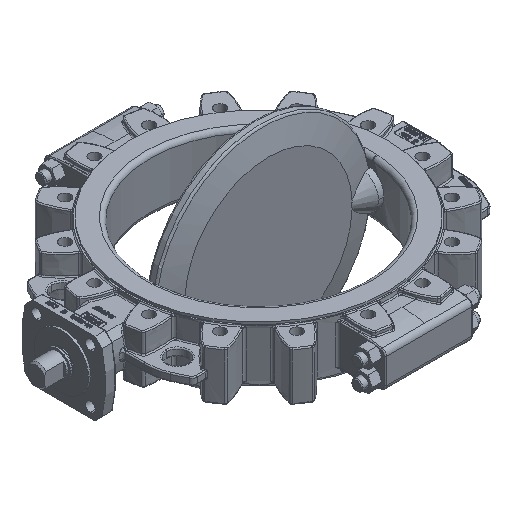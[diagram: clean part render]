
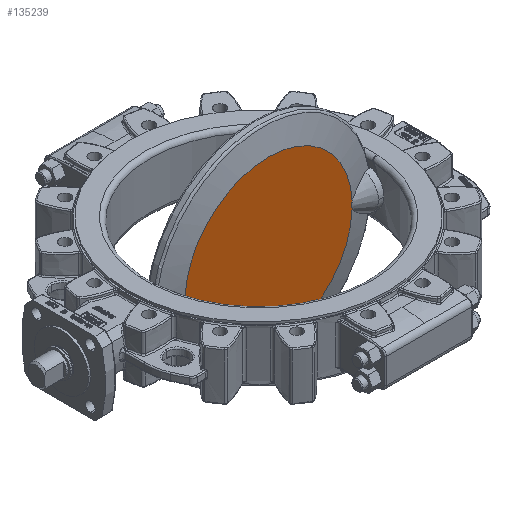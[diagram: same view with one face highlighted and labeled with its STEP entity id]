
A CAD part, isometric view. The second image highlights one B-rep face of the part: STEP entity #135239.
In plain terms, the highlighted planar face has unit normal (0, -1, 0).
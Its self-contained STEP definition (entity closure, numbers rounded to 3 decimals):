
#49932=CARTESIAN_POINT('',(-154.444,-18.5,5.284));
#49933=CARTESIAN_POINT('',(-154.299,-18.5,5.037));
#49934=CARTESIAN_POINT('',(-154.032,-18.5,4.551));
#49935=CARTESIAN_POINT('',(-153.7,-18.5,3.852));
#49936=CARTESIAN_POINT('',(-153.43,-18.5,3.176));
#49937=CARTESIAN_POINT('',(-153.216,-18.5,2.519));
#49938=CARTESIAN_POINT('',(-153.054,-18.5,1.877));
#49939=CARTESIAN_POINT('',(-152.94,-18.5,1.245));
#49940=CARTESIAN_POINT('',(-152.873,-18.5,0.621));
#49941=CARTESIAN_POINT('',(-152.85,-18.5,0.));
#49942=CARTESIAN_POINT('',(-152.873,-18.5,-0.621));
#49943=CARTESIAN_POINT('',(-152.94,-18.5,-1.245));
#49944=CARTESIAN_POINT('',(-153.054,-18.5,-1.877));
#49945=CARTESIAN_POINT('',(-153.216,-18.5,-2.519));
#49946=CARTESIAN_POINT('',(-153.43,-18.5,-3.176));
#49947=CARTESIAN_POINT('',(-153.7,-18.5,-3.852));
#49948=CARTESIAN_POINT('',(-154.032,-18.5,-4.551));
#49949=CARTESIAN_POINT('',(-154.299,-18.5,-5.037));
#49950=CARTESIAN_POINT('',(-154.444,-18.5,-5.284));
#49962=CARTESIAN_POINT('',(0.,-18.5,0.));
#49963=DIRECTION('',(0.,-1.,0.));
#49964=DIRECTION('',(-0.999,0.,-0.034));
#49965=AXIS2_PLACEMENT_3D('',#49962,#49963,#49964);
#49967=CARTESIAN_POINT('',(154.444,-18.5,-5.284));
#50025=CARTESIAN_POINT('',(-154.444,-18.5,-5.284));
#50027=CARTESIAN_POINT('',(154.444,-18.5,-5.284));
#50028=CARTESIAN_POINT('',(154.299,-18.5,-5.037));
#50029=CARTESIAN_POINT('',(154.032,-18.5,-4.551));
#50030=CARTESIAN_POINT('',(153.7,-18.5,-3.852));
#50031=CARTESIAN_POINT('',(153.43,-18.5,-3.176));
#50032=CARTESIAN_POINT('',(153.216,-18.5,-2.519));
#50033=CARTESIAN_POINT('',(153.054,-18.5,-1.877));
#50034=CARTESIAN_POINT('',(152.94,-18.5,-1.245));
#50035=CARTESIAN_POINT('',(152.873,-18.5,-0.621));
#50036=CARTESIAN_POINT('',(152.85,-18.5,0.));
#50037=CARTESIAN_POINT('',(152.873,-18.5,0.621));
#50038=CARTESIAN_POINT('',(152.94,-18.5,1.245));
#50039=CARTESIAN_POINT('',(153.054,-18.5,1.877));
#50040=CARTESIAN_POINT('',(153.216,-18.5,2.519));
#50041=CARTESIAN_POINT('',(153.43,-18.5,3.176));
#50042=CARTESIAN_POINT('',(153.7,-18.5,3.852));
#50043=CARTESIAN_POINT('',(154.032,-18.5,4.551));
#50044=CARTESIAN_POINT('',(154.299,-18.5,5.037));
#50045=CARTESIAN_POINT('',(154.444,-18.5,5.284));
#51726=CARTESIAN_POINT('',(154.444,-18.5,5.284));
#51728=CARTESIAN_POINT('',(0.,-18.5,0.));
#51729=DIRECTION('',(0.,-1.,0.));
#51730=DIRECTION('',(0.999,0.,0.034));
#51731=AXIS2_PLACEMENT_3D('',#51728,#51729,#51730);
#51733=CARTESIAN_POINT('',(-154.444,-18.5,5.284));
#63458=VERTEX_POINT('',#51733);
#63461=VERTEX_POINT('',#50025);
#63469=VERTEX_POINT('',#51726);
#63471=VERTEX_POINT('',#49967);
#135225=CARTESIAN_POINT('',(0.,-18.5,0.));
#135226=DIRECTION('',(0.,1.,0.));
#135227=DIRECTION('',(0.,0.,1.));
#135228=AXIS2_PLACEMENT_3D('',#135225,#135226,#135227);
#135229=PLANE('',#135228);
#135231=ORIENTED_EDGE('',*,*,#135230,.F.);
#135232=ORIENTED_EDGE('',*,*,#135214,.F.);
#135234=ORIENTED_EDGE('',*,*,#135233,.F.);
#135236=ORIENTED_EDGE('',*,*,#135235,.F.);
#135237=EDGE_LOOP('',(#135231,#135232,#135234,#135236));
#135238=FACE_OUTER_BOUND('',#135237,.F.);
#135239=ADVANCED_FACE('',(#135238),#135229,.F.);
#49951=B_SPLINE_CURVE_WITH_KNOTS('',3,(#49932,#49933,#49934,#49935,#49936,
#49937,#49938,#49939,#49940,#49941,#49942,#49943,#49944,#49945,#49946,#49947,
#49948,#49949,#49950),.UNSPECIFIED.,.F.,.F.,(4,1,1,1,1,1,1,1,1,1,1,1,1,1,1,1,4),
(0.,0.063,0.125,0.188,0.25,0.313,0.375,0.438,0.5,0.563,
0.625,0.688,0.75,0.813,0.875,0.938,1.),.UNSPECIFIED.);
#49966=CIRCLE('',#49965,154.535);
#50046=B_SPLINE_CURVE_WITH_KNOTS('',3,(#50027,#50028,#50029,#50030,#50031,
#50032,#50033,#50034,#50035,#50036,#50037,#50038,#50039,#50040,#50041,#50042,
#50043,#50044,#50045),.UNSPECIFIED.,.F.,.F.,(4,1,1,1,1,1,1,1,1,1,1,1,1,1,1,1,4),
(0.,0.063,0.125,0.188,0.25,0.313,0.375,0.438,0.5,0.563,
0.625,0.688,0.75,0.813,0.875,0.938,1.),.UNSPECIFIED.);
#51732=CIRCLE('',#51731,154.535);
#135214=EDGE_CURVE('',#63458,#63461,#49951,.T.);
#135230=EDGE_CURVE('',#63461,#63471,#49966,.T.);
#135233=EDGE_CURVE('',#63469,#63458,#51732,.T.);
#135235=EDGE_CURVE('',#63471,#63469,#50046,.T.);
